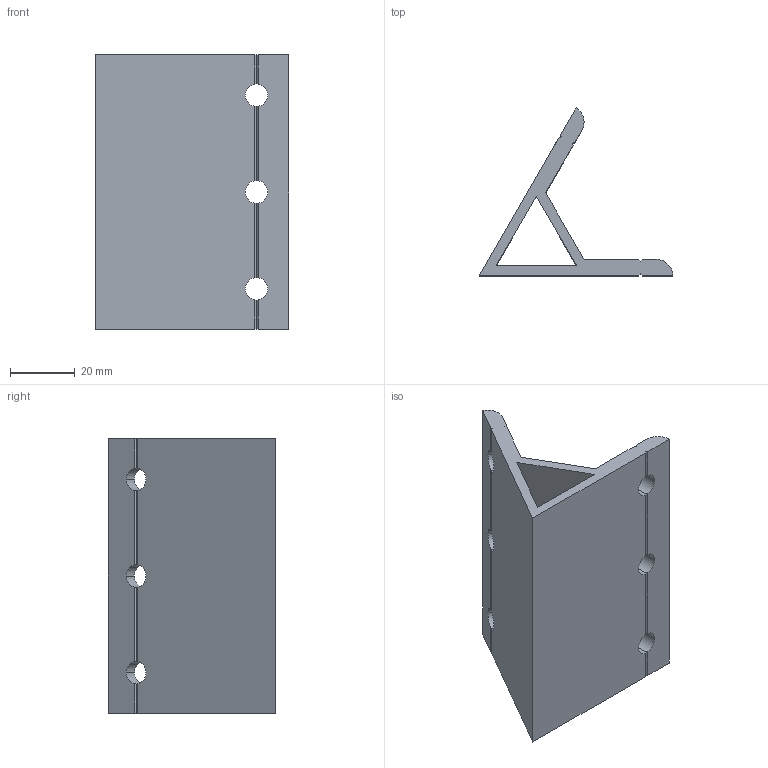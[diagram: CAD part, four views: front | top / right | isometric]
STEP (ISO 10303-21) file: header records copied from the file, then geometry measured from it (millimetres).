
FILE_DESCRIPTION (( 'STEP AP203' ), '1' );
FILE_NAME ('DALV6085-6.STEP', '2020-10-14T01:58:30', ( '' ), ( '' ), 'SwSTEP 2.0', 'SolidWorks 2017', '' );
FILE_SCHEMA (( 'CONFIG_CONTROL_DESIGN' ));
Length unit declared in the file: millimetre
Products named in the file (1): DALV6085-6
Bounding box: 60 x 51.96 x 85 mm (x, y, z)
Volume: 43112.8 mm3; surface area: 25100.2 mm2
Topology: 1 solids, 1 shells, 60 faces, 198 edges, 128 vertices
Faces by surface type: plane 46, cylinder 14
Entity records: 2251 total; most frequent: CARTESIAN_POINT 531, ORIENTED_EDGE 396, DIRECTION 312, EDGE_CURVE 198, VERTEX_POINT 128, LINE 110, VECTOR 110, AXIS2_PLACEMENT_3D 101
